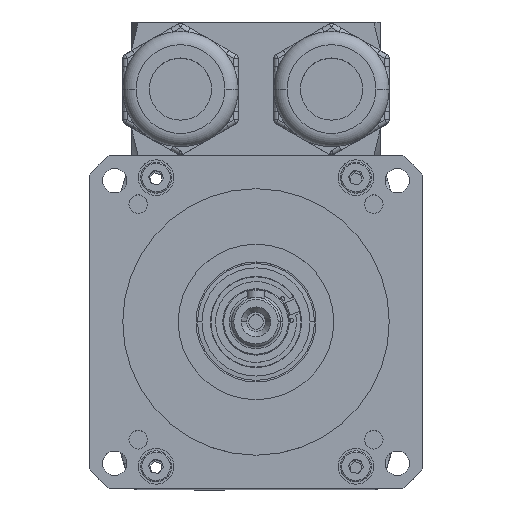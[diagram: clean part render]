
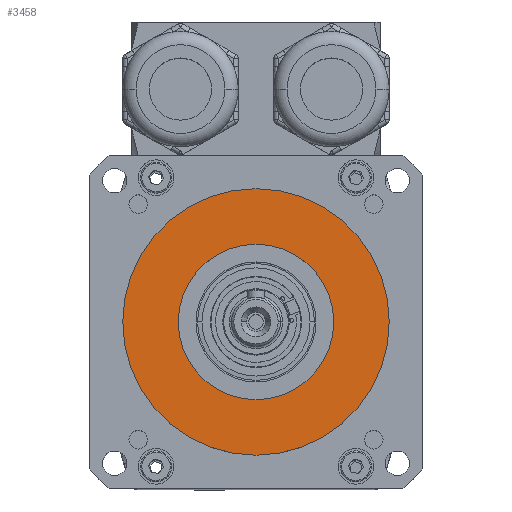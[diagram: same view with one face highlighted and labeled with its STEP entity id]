
A CAD part, top view. The second image highlights one B-rep face of the part: STEP entity #3458.
In plain terms, the highlighted planar face has unit normal (0, 0, 1).
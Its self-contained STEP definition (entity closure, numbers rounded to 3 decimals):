
#876 = ORIENTED_EDGE ( 'NONE', *, *, #8586, .T. ) ;
#879 = ORIENTED_EDGE ( 'NONE', *, *, #8612, .T. ) ;
#883 = ORIENTED_EDGE ( 'NONE', *, *, #8598, .F. ) ;
#905 = ORIENTED_EDGE ( 'NONE', *, *, #8606, .F. ) ;
#1204 = AXIS2_PLACEMENT_3D ( 'NONE', #4130, #4131, #4132 ) ;
#1209 = AXIS2_PLACEMENT_3D ( 'NONE', #4159, #4160, #4161 ) ;
#1214 = AXIS2_PLACEMENT_3D ( 'NONE', #4178, #4180, #4181 ) ;
#1215 = AXIS2_PLACEMENT_3D ( 'NONE', #4193, #4194, #4195 ) ;
#1306 = VERTEX_POINT ( 'NONE', #12624 ) ;
#1339 = VERTEX_POINT ( 'NONE', #12587 ) ;
#2433 = FACE_OUTER_BOUND ( 'NONE', #10860, .T. ) ;
#2440 = FACE_BOUND ( 'NONE', #10861, .T. ) ;
#3458 = ADVANCED_FACE ( 'NONE', ( #2433, #2440 ), #7857, .T. ) ;
#3573 = VERTEX_POINT ( 'NONE', #7569 ) ;
#3604 = VERTEX_POINT ( 'NONE', #6668 ) ;
#4130 = CARTESIAN_POINT ( 'NONE',  ( 0., 0., 19. ) ) ;
#4131 = DIRECTION ( 'NONE',  ( 0., 0., 1. ) ) ;
#4132 = DIRECTION ( 'NONE',  ( 1., 0., 0. ) ) ;
#4159 = CARTESIAN_POINT ( 'NONE',  ( 0., 0., 19. ) ) ;
#4160 = DIRECTION ( 'NONE',  ( 0., 0., 1. ) ) ;
#4161 = DIRECTION ( 'NONE',  ( 1., 0., 0. ) ) ;
#4178 = CARTESIAN_POINT ( 'NONE',  ( 0., 0., 19. ) ) ;
#4180 = DIRECTION ( 'NONE',  ( 0., 0., 1. ) ) ;
#4181 = DIRECTION ( 'NONE',  ( 1., 0., 0. ) ) ;
#4193 = CARTESIAN_POINT ( 'NONE',  ( 0., 0., 19. ) ) ;
#4194 = DIRECTION ( 'NONE',  ( 0., 0., 1. ) ) ;
#4195 = DIRECTION ( 'NONE',  ( 1., 0., 0. ) ) ;
#5622 = CIRCLE ( 'NONE', #1204, 30. ) ;
#5639 = CIRCLE ( 'NONE', #1209, 17.5 ) ;
#5651 = CIRCLE ( 'NONE', #1214, 17.5 ) ;
#5661 = CIRCLE ( 'NONE', #1215, 30. ) ;
#6668 = CARTESIAN_POINT ( 'NONE',  ( -17.5, 0., 19. ) ) ;
#7569 = CARTESIAN_POINT ( 'NONE',  ( 17.5, 0., 19. ) ) ;
#7853 = DIRECTION ( 'NONE',  ( 1., 0., 0. ) ) ;
#7854 = DIRECTION ( 'NONE',  ( 0., 0., 1. ) ) ;
#7857 = PLANE ( 'NONE',  #9558 ) ;
#7859 = CARTESIAN_POINT ( 'NONE',  ( -37.5, 37.5, 19. ) ) ;
#8586 = EDGE_CURVE ( 'NONE', #1339, #1306, #5622, .T. ) ;
#8598 = EDGE_CURVE ( 'NONE', #3573, #3604, #5639, .T. ) ;
#8606 = EDGE_CURVE ( 'NONE', #3604, #3573, #5651, .T. ) ;
#8612 = EDGE_CURVE ( 'NONE', #1306, #1339, #5661, .T. ) ;
#9558 = AXIS2_PLACEMENT_3D ( 'NONE', #7859, #7854, #7853 ) ;
#10860 = EDGE_LOOP ( 'NONE', ( #879, #876 ) ) ;
#10861 = EDGE_LOOP ( 'NONE', ( #883, #905 ) ) ;
#12587 = CARTESIAN_POINT ( 'NONE',  ( -30., 0., 19. ) ) ;
#12624 = CARTESIAN_POINT ( 'NONE',  ( 30., 0., 19. ) ) ;
